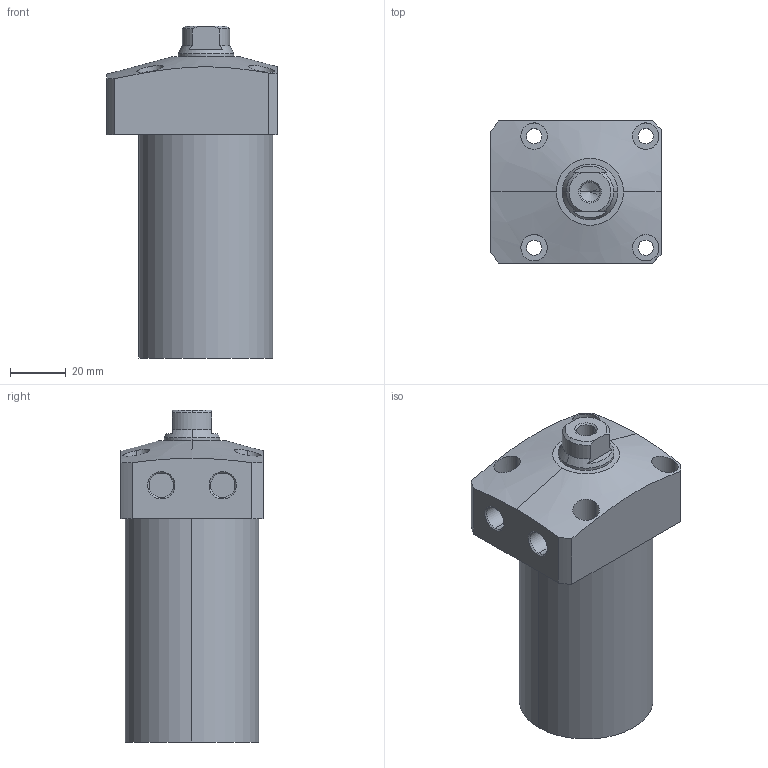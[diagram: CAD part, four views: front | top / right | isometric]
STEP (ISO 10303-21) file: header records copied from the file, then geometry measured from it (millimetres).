
FILE_DESCRIPTION (( 'STEP AP203' ), '1' );
FILE_NAME ('CLL-0480-CA-70.STEP', '2017-05-09T02:31:45', ( '' ), ( '' ), 'SwSTEP 2.0', 'SolidWorks 2015', '' );
FILE_SCHEMA (( 'CONFIG_CONTROL_DESIGN' ));
Length unit declared in the file: millimetre
Products named in the file (1): CLL-0480-CA-70
Bounding box: 61 x 51 x 119 mm (x, y, z)
Volume: 219369.3 mm3; surface area: 26628.5 mm2
Topology: 1 solids, 1 shells, 72 faces, 169 edges, 108 vertices
Faces by surface type: cylinder 35, plane 22, cone 15
Entity records: 2479 total; most frequent: CARTESIAN_POINT 714, DIRECTION 366, ORIENTED_EDGE 334, EDGE_CURVE 167, AXIS2_PLACEMENT_3D 150, VERTEX_POINT 108, EDGE_LOOP 91, CIRCLE 77
